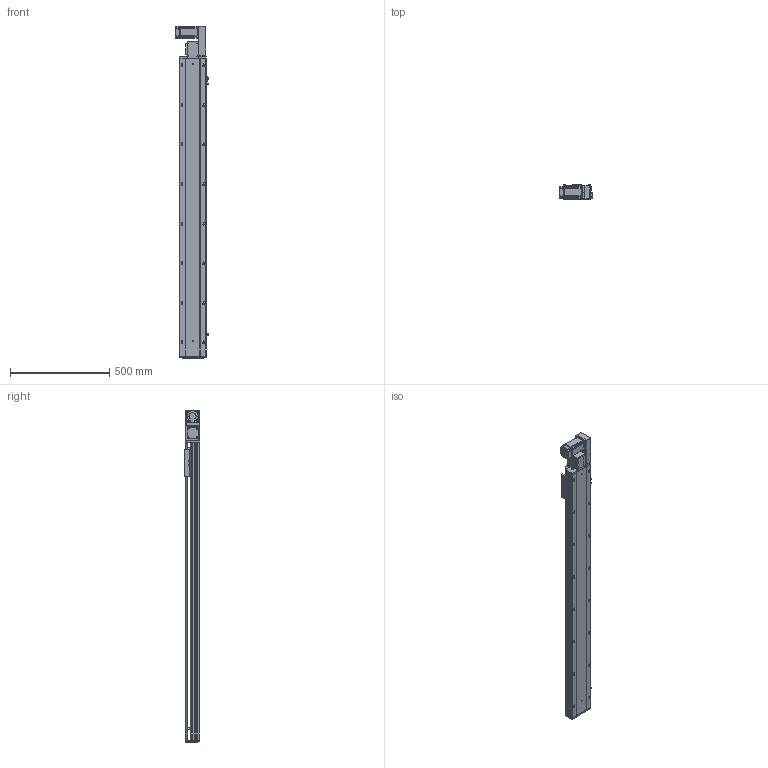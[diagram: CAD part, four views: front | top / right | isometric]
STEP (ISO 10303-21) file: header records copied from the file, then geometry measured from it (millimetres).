
FILE_DESCRIPTION (( 'STEP AP203' ), '1' );
FILE_NAME ('RY140-T-300-RK.SLDASM_1250.step', '2021-03-01T06:46:10', ( '盈信电脑' ), ( '东莞市道滘镇水果街19号' ), 'SwSTEP 2.0', 'SolidWorks 2012', '' );
FILE_SCHEMA (( 'CONFIG_CONTROL_DESIGN' ));
Length unit declared in the file: millimetre
Products named in the file (17): RY140-T-300-DR倰第菁釱_1250; RY140肮祭謫臏賑輸; RY140綴裔啣; 覜茼ん672; RY140-T-300-DR倰第奻裔啣_1250; RY140-T-300-RK.SLDASM_1250; RY120-T主同步轮轴承压盖; RY140-T萇儂假蚾啣; RY140-T萇儂欶; 15; RY120-T蹟翐M4; RY140-T翋肮祭謫盓傅釱; 滅袉蝶18-10; RY120-T肮祭湍揤踡輸1; RY140-T翋肮謫裔啣; RY120外置感应片(140共用）; RY120-T肮祭湍揤踡輸2
Assembly tree (22 placements, depth 2):
  RY140-T-300-RK.SLDASM_1250
    RY140-T-300-DR倰第菁釱_1250
    RY140肮祭謫臏賑輸
    RY140-T-300-DR倰第奻裔啣_1250
    RY140綴裔啣
    覜茼ん672  x3
    RY120外置感应片(140共用）
    RY120-T肮祭湍揤踡輸2
    RY120-T肮祭湍揤踡輸1
    RY140-T翋肮祭謫盓傅釱
    滅袉蝶18-10  x2
    RY140-T翋肮謫裔啣
    RY140-T萇儂欶
    RY140-T萇儂假蚾啣
    RY120-T蹟翐M4  x4
    15
    RY120-T主同步轮轴承压盖
Bounding box: 170.7 x 78 x 1676.5 mm (x, y, z)
Volume: 4595518.7 mm3; surface area: 1768437.9 mm2
Topology: 22 solids, 22 shells, 2719 faces, 7437 edges, 4758 vertices
Faces by surface type: plane 1381, cylinder 1000, cone 238, bspline 100
Entity records: 85706 total; most frequent: CARTESIAN_POINT 20865, ORIENTED_EDGE 13322, DIRECTION 12705, EDGE_CURVE 6661, VERTEX_POINT 4357, LINE 4253, VECTOR 4253, AXIS2_PLACEMENT_3D 4226
